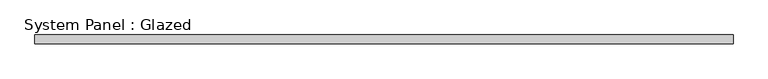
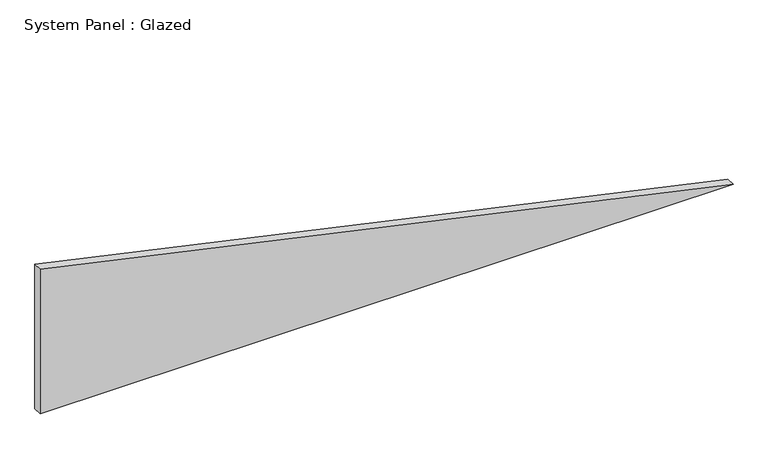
"""IFC4 building model written with IfcOpenShell, lengths in millimetres: plate geometry, System Panel : Glazed."""

import ifcopenshell
import ifcopenshell.guid

model = None  # the IFC model being written
_history = None  # IfcOwnerHistory: only IFC2X3 demands one
_inside = {}  # id of a spatial element -> (the spatial element, [elements in it])
_under = {}  # id of a project, library or spatial element -> (it, [spatial elements below it])
_declared = {}  # id of a project -> (the project, [libraries it declares])
_typed = {}  # id of a type object -> (the type object, [elements of that type])
_made_of = {}  # id of a material, layer set ... -> (it, [elements and type objects made of it])


def new_model(schema):
    """Start an empty IFC model of exactly this schema.

    Asked for "IFC4X3", IfcOpenShell would pick the latest addendum, in which some entities
    have other attributes; the version numbers below select the first issue.
    IFC2X3 requires an IfcOwnerHistory on every rooted entity: one is made here for all.
    """
    global model, _history
    if schema == "IFC4X3":
        model = ifcopenshell.file(schema_version=(4, 3, 0, 0))
    else:
        model = ifcopenshell.file(schema=schema)
    _inside.clear()
    _under.clear()
    _declared.clear()
    _typed.clear()
    _made_of.clear()
    _history = None
    if model.schema == "IFC2X3":
        org = make("IfcOrganization", Name="unknown")
        user = make(
            "IfcPersonAndOrganization",
            ThePerson=make("IfcPerson", FamilyName="unknown"),
            TheOrganization=org,
        )
        app = make(
            "IfcApplication",
            ApplicationDeveloper=org,
            Version="unknown",
            ApplicationFullName="unknown",
            ApplicationIdentifier="unknown",
        )
        _history = make(
            "IfcOwnerHistory",
            OwningUser=user,
            OwningApplication=app,
            ChangeAction="ADDED",
            CreationDate=0,
        )
    return model


def make(cls, **values):
    """One entity of the class cls with the attributes given. An attribute that is None is left unset."""
    return model.create_entity(
        cls, **{name: value for name, value in values.items() if value is not None}
    )


def rooted(cls, **values):
    """An entity with a GlobalId (a new one), such as an element, a storey or a relation."""
    return make(cls, GlobalId=ifcopenshell.guid.new(), OwnerHistory=_history, **values)


def si_unit(unit_type, name, prefix=None):
    """IfcSIUnit, for example si_unit("LENGTHUNIT", "METRE", prefix="MILLI")."""
    return make("IfcSIUnit", UnitType=unit_type, Prefix=prefix, Name=name)


def assignment(units):
    """IfcUnitAssignment: the units of a project."""
    return None if units is None else make("IfcUnitAssignment", Units=units)


def point(xyz):
    """IfcCartesianPoint."""
    return None if xyz is None else make("IfcCartesianPoint", Coordinates=xyz)


def direction(xyz):
    """IfcDirection."""
    return None if xyz is None else make("IfcDirection", DirectionRatios=xyz)


def frame(location, z_axis=None, x_axis=None):
    """IfcAxis2Placement3D, a coordinate frame: its origin and axes. An axis left out is left unset."""
    return make(
        "IfcAxis2Placement3D",
        Location=point(location),
        Axis=direction(z_axis),
        RefDirection=direction(x_axis),
    )


def origin():
    """The frame at (0, 0, 0) with its axes left unset."""
    return frame((0.0, 0.0, 0.0))


def place(relative_to, where):
    """IfcLocalPlacement: puts the frame where relative to a parent placement (None: the world)."""
    return make(
        "IfcLocalPlacement", PlacementRelTo=relative_to, RelativePlacement=where
    )


def context(
    kind, dimensions, precision=None, world=None, true_north=None, identifier=None
):
    """IfcGeometricRepresentationContext, for example the 3D "Model" context."""
    return make(
        "IfcGeometricRepresentationContext",
        ContextIdentifier=identifier,
        ContextType=kind,
        CoordinateSpaceDimension=dimensions,
        Precision=precision,
        WorldCoordinateSystem=world,
        TrueNorth=true_north,
    )


def project(units=None, contexts=None):
    """IfcProject with its units and contexts."""
    return rooted(
        "IfcProject",
        Name="project",
        RepresentationContexts=contexts,
        UnitsInContext=assignment(units),
    )


def spatial(cls, under=None, at=None, **own):
    """A site, building, storey or space (cls), placed at a placement, below another one or the project."""
    s = rooted(cls, ObjectPlacement=at, **own)
    if under is not None:
        _under.setdefault(under.id(), (under, []))[1].append(s)
    return s


def polyline(points):
    """IfcPolyline through the points."""
    return make("IfcPolyline", Points=[point(p) for p in points])


def outline(outer, holes=None, kind="AREA"):
    """IfcArbitraryClosedProfileDef: a profile drawn as a closed curve; with holes, ...WithVoids."""
    if holes is None:
        return make("IfcArbitraryClosedProfileDef", ProfileType=kind, OuterCurve=outer)
    return make(
        "IfcArbitraryProfileDefWithVoids",
        ProfileType=kind,
        OuterCurve=outer,
        InnerCurves=holes,
    )


def extrude(swept, where, along, depth):
    """IfcExtrudedAreaSolid: the profile swept, set in the frame where, extruded along a direction by depth."""
    return make(
        "IfcExtrudedAreaSolid",
        SweptArea=swept,
        Position=where,
        ExtrudedDirection=direction(along),
        Depth=depth,
    )


def shape(context_of_items, identifier, shape_type, items):
    """IfcShapeRepresentation: the items that make up one representation, for example the "Body"."""
    return make(
        "IfcShapeRepresentation",
        ContextOfItems=context_of_items,
        RepresentationIdentifier=identifier,
        RepresentationType=shape_type,
        Items=items,
    )


def source(mapping_origin, context_of_items, identifier, shape_type, items):
    """IfcRepresentationMap: a shape defined once, which mapped items show again and again."""
    return make(
        "IfcRepresentationMap",
        MappingOrigin=mapping_origin,
        MappedRepresentation=shape(context_of_items, identifier, shape_type, items),
    )


def transform(
    local_origin,
    x_axis=None,
    y_axis=None,
    z_axis=None,
    scale=None,
    scale2=None,
    scale3=None,
    uniform=True,
):
    """IfcCartesianTransformationOperator3D, or its non-uniform kind. x_axis, y_axis, z_axis: its Axis1, 2, 3."""
    if uniform:
        return make(
            "IfcCartesianTransformationOperator3D",
            Axis1=direction(x_axis),
            Axis2=direction(y_axis),
            LocalOrigin=point(local_origin),
            Scale=scale,
            Axis3=direction(z_axis),
        )
    return make(
        "IfcCartesianTransformationOperator3DnonUniform",
        Axis1=direction(x_axis),
        Axis2=direction(y_axis),
        LocalOrigin=point(local_origin),
        Scale=scale,
        Axis3=direction(z_axis),
        Scale2=scale2,
        Scale3=scale3,
    )


def mapped(mapping_source, mapping_target):
    """IfcMappedItem: shows the shape of a source again, moved by a transform."""
    return make(
        "IfcMappedItem", MappingSource=mapping_source, MappingTarget=mapping_target
    )


def made_of(thing, what):
    """Note that an element or type object is made of a material, layer set ...; save() writes the relation."""
    if what is not None:
        _made_of.setdefault(what.id(), (what, []))[1].append(thing)
    return thing


def element(
    cls,
    number,
    at=None,
    inside=None,
    cuts=None,
    type_object=None,
    material=None,
    context=None,
    identifier="Body",
    shape_type=None,
    held_by="IfcProductDefinitionShape",
    body=None,
    shapes=None,
    **own,
):
    """One element of the class cls, such as IfcWall. Its Tag is "e" and its number.

    at: its placement. inside: the storey or other place that contains it. cuts: it is an
    opening in that element (IfcRelVoidsElement). A single representation is given by context,
    identifier, shape_type and body (its items); several are given by shapes. held_by: the class
    of the entity that holds the representations. save() writes the other relations.
    """
    e = rooted(cls, Tag="e%d" % number, ObjectPlacement=at, **own)
    if body is not None:
        shapes = [shape(context, identifier, shape_type, body)]
    if shapes is not None:
        e.Representation = make(held_by, Representations=shapes)
    if inside is not None:
        _inside.setdefault(inside.id(), (inside, []))[1].append(e)
    if cuts is not None:
        rooted(
            "IfcRelVoidsElement", RelatingBuildingElement=cuts, RelatedOpeningElement=e
        )
    if type_object is not None:
        _typed.setdefault(type_object.id(), (type_object, []))[1].append(e)
    return made_of(e, material)


def aggregate(whole, parts):
    """IfcRelAggregates: a whole, such as a stair, and the parts it consists of."""
    return rooted("IfcRelAggregates", RelatingObject=whole, RelatedObjects=parts)


def save(model, path):
    """Write the relations noted so far, then the file.

    IfcRelAggregates (storeys below a building ...), IfcRelContainedInSpatialStructure (elements
    in a storey), IfcRelDefinesByType, IfcRelAssociatesMaterial and IfcRelDeclares: one each for
    every whole, place, type object, material and project.
    """
    for whole, parts in _under.values():
        aggregate(whole, parts)
    for where, things in _inside.values():
        rooted(
            "IfcRelContainedInSpatialStructure",
            RelatedElements=things,
            RelatingStructure=where,
        )
    for kind, things in _typed.values():
        rooted("IfcRelDefinesByType", RelatedObjects=things, RelatingType=kind)
    for what, things in _made_of.values():
        rooted("IfcRelAssociatesMaterial", RelatedObjects=things, RelatingMaterial=what)
    for by, libraries in _declared.values():
        rooted("IfcRelDeclares", RelatingContext=by, RelatedDefinitions=libraries)
    model.write(path)


def system_panel_glazed_1304c4ac(model_context):
    return source(origin(), model_context, "Body", "SweptSolid", [
        extrude(outline(polyline([(0.0, -995.1918035), (0.0, 995.1918035), (437.6280424, -995.1918035), (0.0, -995.1918035)])), frame((0.0, -12.7, 0.0), z_axis=(0.0, 1.0, 0.0), x_axis=(0.0, 0.0, 1.0)), (0.0, 0.0, 1.0), 25.4),
    ])


if __name__ == "__main__":
    model = new_model("IFC4")
    model_context = context("Model", 3, world=origin())
    ifc_project = project(units=[si_unit("LENGTHUNIT", "METRE", prefix="MILLI")], contexts=[model_context])
    site = spatial("IfcSite", under=ifc_project)
    building = spatial("IfcBuilding", under=site)
    placement = place(None, origin())
    system_panel_glazed_shape = system_panel_glazed_1304c4ac(model_context)
    element("IfcPlate", 1, ObjectType="System Panel : Glazed", at=placement, inside=building, context=model_context, shape_type="MappedRepresentation", body=[
        mapped(system_panel_glazed_shape, transform((0.0, 0.0, 0.0), x_axis=(1.0, 0.0, 0.0), y_axis=(0.0, 1.0, 0.0), z_axis=(0.0, 0.0, 1.0))),
    ])
    save(model, "model.ifc")
